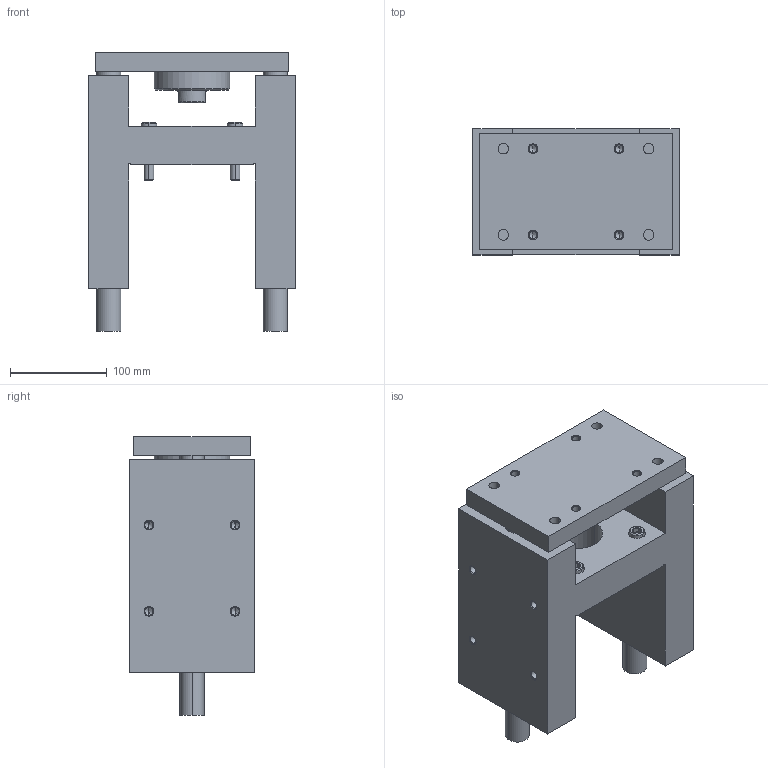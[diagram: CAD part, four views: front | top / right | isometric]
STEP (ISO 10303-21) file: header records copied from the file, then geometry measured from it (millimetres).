
FILE_DESCRIPTION (( 'STEP AP203' ), '1' );
FILE_NAME ('GB100-25.STEP', '2020-04-24T13:40:00', ( '' ), ( '' ), 'SwSTEP 2.0', 'SolidWorks 2019', '' );
FILE_SCHEMA (( 'CONFIG_CONTROL_DESIGN' ));
Length unit declared in the file: millimetre
Products named in the file (1): GB100-25
Bounding box: 213 x 130 x 288 mm (x, y, z)
Volume: 3516915.5 mm3; surface area: 378706.6 mm2
Topology: 6 solids, 6 shells, 329 faces, 728 edges, 412 vertices
Faces by surface type: cone 134, cylinder 98, plane 97
Entity records: 9631 total; most frequent: CARTESIAN_POINT 2242, DIRECTION 1662, ORIENTED_EDGE 1392, EDGE_CURVE 696, AXIS2_PLACEMENT_3D 664, VERTEX_POINT 412, EDGE_LOOP 392, VECTOR 334
